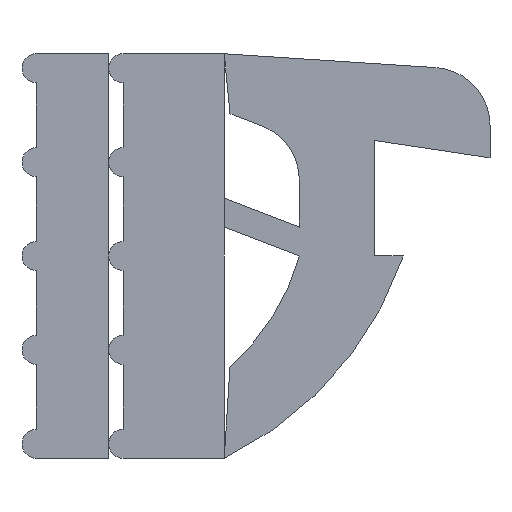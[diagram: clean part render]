
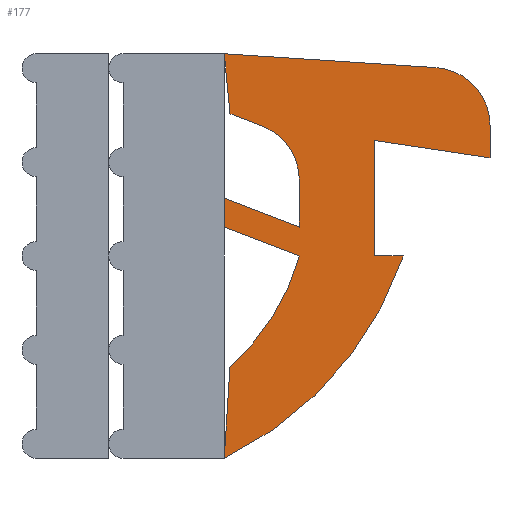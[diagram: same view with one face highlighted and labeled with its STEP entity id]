
A CAD part, front view. The second image highlights one B-rep face of the part: STEP entity #177.
In plain terms, the highlighted planar face has unit normal (0, -1, 0).
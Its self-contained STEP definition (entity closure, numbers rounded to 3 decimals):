
#177=ADVANCED_FACE('',(#330),#331,.T.);
#330=FACE_OUTER_BOUND('',#482,.T.);
#331=PLANE('',#483);
#482=EDGE_LOOP('',(#719,#720,#721,#722,#723,#724,#725,#726,#727,#728,#729,#730,#731,#732,#733,#734));
#483=AXIS2_PLACEMENT_3D('',#735,#736,#737);
#719=ORIENTED_EDGE('',*,*,#1020,.T.);
#720=ORIENTED_EDGE('',*,*,#1023,.T.);
#721=ORIENTED_EDGE('',*,*,#1026,.T.);
#722=ORIENTED_EDGE('',*,*,#1029,.T.);
#723=ORIENTED_EDGE('',*,*,#1032,.T.);
#724=ORIENTED_EDGE('',*,*,#1035,.T.);
#725=ORIENTED_EDGE('',*,*,#1038,.T.);
#726=ORIENTED_EDGE('',*,*,#1041,.T.);
#727=ORIENTED_EDGE('',*,*,#1044,.T.);
#728=ORIENTED_EDGE('',*,*,#1047,.T.);
#729=ORIENTED_EDGE('',*,*,#1050,.T.);
#730=ORIENTED_EDGE('',*,*,#1053,.T.);
#731=ORIENTED_EDGE('',*,*,#1056,.T.);
#732=ORIENTED_EDGE('',*,*,#1059,.T.);
#733=ORIENTED_EDGE('',*,*,#1017,.T.);
#734=ORIENTED_EDGE('',*,*,#996,.T.);
#735=CARTESIAN_POINT('',(0.3,0.0,4.813));
#736=DIRECTION('',(0.0,-1.0,0.0));
#737=DIRECTION('',(-1.0,0.0,0.0));
#996=EDGE_CURVE('',#1162,#1163,#1164,.T.);
#1017=EDGE_CURVE('',#1201,#1162,#1202,.T.);
#1020=EDGE_CURVE('',#1163,#1205,#1206,.T.);
#1023=EDGE_CURVE('',#1205,#1209,#1210,.T.);
#1026=EDGE_CURVE('',#1209,#1213,#1214,.T.);
#1029=EDGE_CURVE('',#1213,#1217,#1218,.T.);
#1032=EDGE_CURVE('',#1217,#1221,#1222,.T.);
#1035=EDGE_CURVE('',#1221,#1225,#1226,.T.);
#1038=EDGE_CURVE('',#1225,#1229,#1230,.T.);
#1041=EDGE_CURVE('',#1229,#1233,#1234,.T.);
#1044=EDGE_CURVE('',#1233,#1237,#1238,.T.);
#1047=EDGE_CURVE('',#1237,#1241,#1242,.T.);
#1050=EDGE_CURVE('',#1241,#1245,#1246,.T.);
#1053=EDGE_CURVE('',#1245,#1249,#1250,.T.);
#1056=EDGE_CURVE('',#1249,#1253,#1254,.T.);
#1059=EDGE_CURVE('',#1253,#1201,#1257,.T.);
#1162=VERTEX_POINT('',#1408);
#1163=VERTEX_POINT('',#1409);
#1164=LINE('',#1410,#1411);
#1201=VERTEX_POINT('',#1462);
#1202=CIRCLE('',#1463,1.0);
#1205=VERTEX_POINT('',#1467);
#1206=LINE('',#1468,#1469);
#1209=VERTEX_POINT('',#1473);
#1210=LINE('',#1474,#1475);
#1213=VERTEX_POINT('',#1479);
#1214=CIRCLE('',#1480,1.);
#1217=VERTEX_POINT('',#1484);
#1218=LINE('',#1485,#1486);
#1221=VERTEX_POINT('',#1490);
#1222=LINE('',#1491,#1492);
#1225=VERTEX_POINT('',#1496);
#1226=LINE('',#1497,#1498);
#1229=VERTEX_POINT('',#1502);
#1230=LINE('',#1503,#1504);
#1233=VERTEX_POINT('',#1508);
#1234=CIRCLE('',#1509,4.);
#1237=VERTEX_POINT('',#1513);
#1238=LINE('',#1514,#1515);
#1241=VERTEX_POINT('',#1519);
#1242=CIRCLE('',#1520,6.0);
#1245=VERTEX_POINT('',#1524);
#1246=LINE('',#1525,#1526);
#1249=VERTEX_POINT('',#1530);
#1250=LINE('',#1531,#1532);
#1253=VERTEX_POINT('',#1536);
#1254=LINE('',#1537,#1538);
#1257=LINE('',#1542,#1543);
#1408=CARTESIAN_POINT('',(3.665,0.0,6.761));
#1409=CARTESIAN_POINT('',(0.,0.0,7.0));
#1410=CARTESIAN_POINT('',(3.665,0.0,6.761));
#1411=VECTOR('',#1745,1.0);
#1462=CARTESIAN_POINT('',(4.6,0.0,5.763));
#1463=AXIS2_PLACEMENT_3D('',#1772,#1773,#1774);
#1467=CARTESIAN_POINT('',(0.1,0.0,5.962));
#1468=CARTESIAN_POINT('',(0.,0.0,7.0));
#1469=VECTOR('',#1776,1.0);
#1473=CARTESIAN_POINT('',(0.659,0.0,5.747));
#1474=CARTESIAN_POINT('',(0.1,0.0,5.962));
#1475=VECTOR('',#1778,1.0);
#1479=CARTESIAN_POINT('',(1.3,0.0,4.813));
#1480=AXIS2_PLACEMENT_3D('',#1780,#1781,#1782);
#1484=CARTESIAN_POINT('',(1.3,0.0,4.0));
#1485=CARTESIAN_POINT('',(1.3,0.0,4.813));
#1486=VECTOR('',#1784,1.0);
#1490=CARTESIAN_POINT('',(0.,0.0,4.5));
#1491=CARTESIAN_POINT('',(1.3,0.0,4.0));
#1492=VECTOR('',#1786,1.0);
#1496=CARTESIAN_POINT('',(0.,0.0,4.0));
#1497=CARTESIAN_POINT('',(0.,0.0,4.5));
#1498=VECTOR('',#1788,1.0);
#1502=CARTESIAN_POINT('',(1.3,0.0,3.5));
#1503=CARTESIAN_POINT('',(0.,0.0,4.0));
#1504=VECTOR('',#1790,1.0);
#1508=CARTESIAN_POINT('',(0.1,0.0,1.586));
#1509=AXIS2_PLACEMENT_3D('',#1792,#1793,#1794);
#1513=CARTESIAN_POINT('',(0.,0.0,0.));
#1514=CARTESIAN_POINT('',(0.1,0.0,1.586));
#1515=VECTOR('',#1796,1.0);
#1519=CARTESIAN_POINT('',(3.1,0.0,3.5));
#1520=AXIS2_PLACEMENT_3D('',#1798,#1799,#1800);
#1524=CARTESIAN_POINT('',(2.6,0.0,3.5));
#1525=CARTESIAN_POINT('',(3.1,0.0,3.5));
#1526=VECTOR('',#1802,1.0);
#1530=CARTESIAN_POINT('',(2.6,0.0,5.5));
#1531=CARTESIAN_POINT('',(2.6,0.0,3.5));
#1532=VECTOR('',#1804,1.0);
#1536=CARTESIAN_POINT('',(4.6,0.0,5.2));
#1537=CARTESIAN_POINT('',(2.6,0.0,5.5));
#1538=VECTOR('',#1806,1.0);
#1542=CARTESIAN_POINT('',(4.6,0.0,5.2));
#1543=VECTOR('',#1808,1.0);
#1745=DIRECTION('',(-0.998,0.0,0.065));
#1772=CARTESIAN_POINT('',(3.6,0.0,5.763));
#1773=DIRECTION('',(0.0,-1.0,0.0));
#1774=DIRECTION('',(1.0,0.0,0.0));
#1776=DIRECTION('',(0.096,0.0,-0.995));
#1778=DIRECTION('',(0.933,0.0,-0.359));
#1780=CARTESIAN_POINT('',(0.3,0.0,4.813));
#1781=DIRECTION('',(0.0,1.0,0.0));
#1782=DIRECTION('',(-1.0,0.0,0.0));
#1784=DIRECTION('',(0.0,0.0,-1.0));
#1786=DIRECTION('',(-0.933,0.0,0.359));
#1788=DIRECTION('',(0.0,0.0,-1.0));
#1790=DIRECTION('',(0.933,0.0,-0.359));
#1792=CARTESIAN_POINT('',(-2.551,0.0,4.581));
#1793=DIRECTION('',(0.0,1.0,0.0));
#1794=DIRECTION('',(-1.0,0.0,0.0));
#1796=DIRECTION('',(-0.063,0.0,-0.998));
#1798=CARTESIAN_POINT('',(-2.587,0.0,5.414));
#1799=DIRECTION('',(0.0,-1.0,0.0));
#1800=DIRECTION('',(1.0,0.0,0.0));
#1802=DIRECTION('',(-1.0,0.0,0.));
#1804=DIRECTION('',(0.0,0.0,1.0));
#1806=DIRECTION('',(0.989,0.0,-0.148));
#1808=DIRECTION('',(0.0,0.0,1.0));
